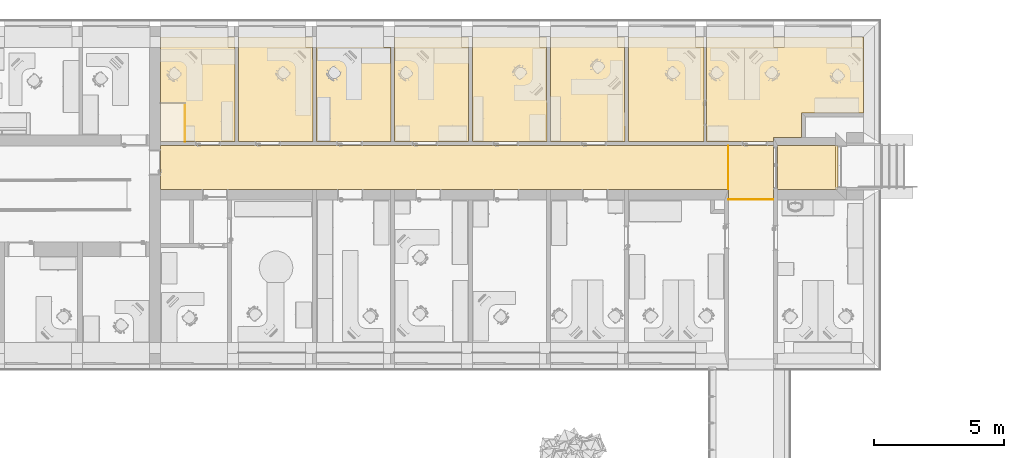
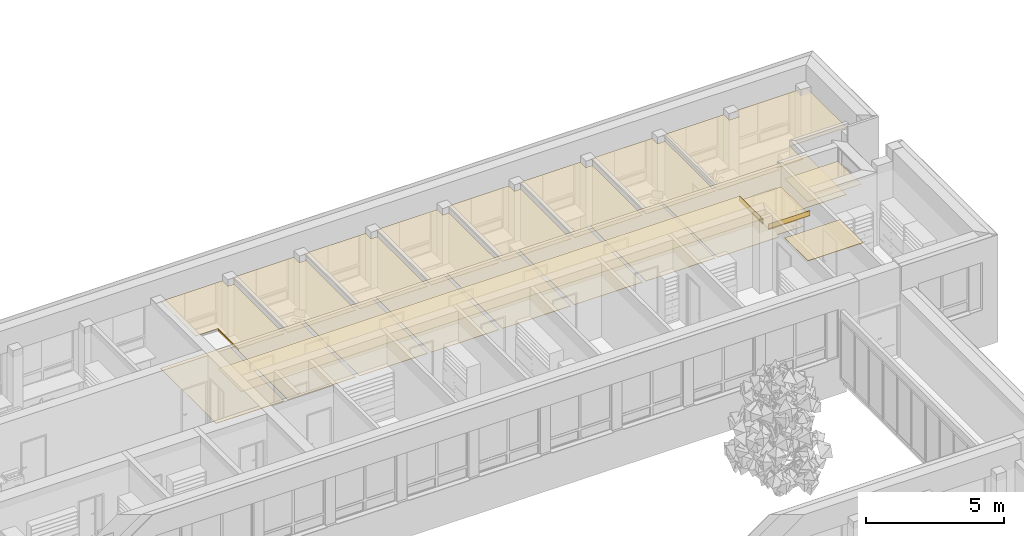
# One storey, part 109 of 194: 24 coverings.
"""IFC2X3 building model written with IfcOpenShell, lengths in millimetres."""

from ifc_helpers import new_model, entity, si_unit, converted_unit, derived_unit, money_unit, direction, frame, origin_with_axes, place, context, subcontext, project, spatial, polyline, outline, extrude, material, type_object, element, save


model = new_model("IFC2X3")

# Units and contexts
model_context = context("Model", 3, precision=1e-05, world=origin_with_axes(), true_north=direction((0.0, 1.0)))
body_context = subcontext(model_context, "Body", "Model", "MODEL_VIEW")
ifc_project = project(units=[si_unit("LENGTHUNIT", "METRE", prefix="MILLI"), si_unit("AREAUNIT", "SQUARE_METRE"), si_unit("VOLUMEUNIT", "CUBIC_METRE"), converted_unit("PLANEANGLEUNIT", "DEGREE", entity("IfcPlaneAngleMeasure", 0.0174532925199), si_unit("PLANEANGLEUNIT", "RADIAN"), dimensions=[0, 0, 0, 0, 0, 0, 0]), si_unit("SOLIDANGLEUNIT", "STERADIAN"), money_unit("EUR"), converted_unit("TIMEUNIT", "Year", entity("IfcTimeMeasure", 31556926.0), si_unit("TIMEUNIT", "SECOND"), dimensions=[0, 0, 1, 0, 0, 0, 0]), si_unit("MASSUNIT", "GRAM", prefix="KILO"), si_unit("THERMODYNAMICTEMPERATUREUNIT", "DEGREE_CELSIUS"), si_unit("LUMINOUSINTENSITYUNIT", "LUMEN"), si_unit("ENERGYUNIT", "JOULE", prefix="MEGA"), derived_unit("THERMALCONDUCTANCEUNIT", [(si_unit("POWERUNIT", "WATT"), 1), (si_unit("LENGTHUNIT", "METRE"), -1), (si_unit("THERMODYNAMICTEMPERATUREUNIT", "KELVIN"), -1)]), derived_unit("SPECIFICHEATCAPACITYUNIT", [(si_unit("ENERGYUNIT", "JOULE"), 1), (si_unit("MASSUNIT", "GRAM", prefix="KILO"), -1), (si_unit("THERMODYNAMICTEMPERATUREUNIT", "KELVIN"), -1)]), derived_unit("MASSDENSITYUNIT", [(si_unit("MASSUNIT", "GRAM", prefix="KILO"), 1), (si_unit("VOLUMEUNIT", "CUBIC_METRE"), -1)])], contexts=[model_context])

# Site, building, storey
site_placement = place(None, origin_with_axes())
site = spatial("IfcSite", under=ifc_project, at=site_placement, Name="Site", CompositionType="ELEMENT")
building_placement = place(site_placement, origin_with_axes())
building = spatial("IfcBuilding", under=site, at=building_placement, Name="Building", CompositionType="ELEMENT")
storey_placement = place(building_placement, frame((0.0, 0.0, 3000.0), z_axis=(0.0, 0.0, 1.0), x_axis=(1.0, 0.0, 0.0)))
storey = spatial("IfcBuildingStorey", under=building, at=storey_placement, Name="2 KORRUS", CompositionType="ELEMENT", Elevation=3000.0)

# Coverings
ifc_material_1 = material(Name="Kipsplaat")
covering_type_1 = type_object("IfcCoveringType", Name="L-4", PredefinedType="CEILING")
covering_1_placement = place(storey_placement, frame((42113.7399472, 67315.6083403, 2600.0), z_axis=(0.0, 0.0, 1.0), x_axis=(1.0, 0.0, 0.0)))
element("IfcCovering", 1, at=covering_1_placement, inside=storey, type_object=covering_type_1, material=ifc_material_1, Name="Ripplagi", PredefinedType="CEILING", context=body_context, shape_type="SweptSolid", body=[
    extrude(outline(polyline([(0.0, 0.0), (-2230.49243267, -0.138363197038), (-2230.49243267, -1685.57998438), (1.03561245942, -1685.57998438), (0.0, 0.0)])), origin_with_axes(), (0.0, 0.0, 1.0), 15.0),
])
covering_2_placement = place(storey_placement, frame((38000.74873, 65230.1450299, 2299.58287561), z_axis=(0.0, 0.0, 1.0), x_axis=(1.0, 0.0, 0.0)))
element("IfcCovering", 2, at=covering_2_placement, inside=storey, type_object=covering_type_1, material=ifc_material_1, Name="Ripplagi", PredefinedType="CEILING", context=body_context, shape_type="SweptSolid", body=[
    extrude(outline(polyline([(0.0, 0.0), (1732.49878453, 0.0), (1732.49878453, 2085.31654263), (0.0, 2085.31654263), (0.0, 0.0)])), origin_with_axes(), (0.0, 0.0, 1.0), 15.0),
])
covering_3_placement = place(storey_placement, frame((16157.2283117, 65630.0283559, 2500.0), z_axis=(0.0, 0.0, 1.0), x_axis=(1.0, 0.0, 0.0)))
element("IfcCovering", 3, at=covering_3_placement, inside=storey, type_object=covering_type_1, material=ifc_material_1, Name="Ripplagi", PredefinedType="CEILING", context=body_context, shape_type="SweptSolid", body=[
    extrude(outline(polyline([(0.0, 0.0), (21843.5204183, 0.0), (21843.5204183, 1685.43321671), (0.0, 1685.43321671), (0.0, 0.0)])), origin_with_axes(), (0.0, 0.0, 1.0), 15.0),
])
ifc_material_2 = material(Name="Betoon - Ol.Olev konstruktsioon")
covering_type_2 = type_object("IfcCoveringType", Name="P-6", PredefinedType="NOTDEFINED")
for number, where, z_axis, x_axis in (
    (4, (42206.5060597, 67315.6140948, 0.0), (0.0, 0.0, 1.0), (1.0, 0.0, 0.0)),
    (5, (42206.5060597, 67315.6140948, 0.0), (0.0, 0.0, 1.0), (1.0, 0.0, 0.0)),
):
    element("IfcCovering", number, at=place(storey_placement, frame(where, z_axis=z_axis, x_axis=x_axis)), inside=storey, type_object=covering_type_2, material=ifc_material_2, Name="Betoon - Ol.Olev konstruktsioon", PredefinedType="NOTDEFINED", context=body_context, shape_type="SweptSolid", body=[
        extrude(outline(polyline([(0.0, 0.0), (-2323.25854513, -0.144117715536), (-2323.25854513, -1685.5857389), (1.03561599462, -1685.5857389), (0.0, 0.0)])), frame((0.0, 0.0, -20.0), z_axis=(0.0, 0.0, 1.0), x_axis=(1.0, 0.0, 0.0)), (0.0, 0.0, 1.0), 20.0),
    ])
covering_type_3 = type_object("IfcCoveringType", Name="P-2", PredefinedType="NOTDEFINED")
covering_4_placement = place(storey_placement, frame((43191.4977047, 71492.4605109, 0.0), z_axis=(0.0, 0.0, 1.0), x_axis=(1.0, 0.0, 0.0)))
element("IfcCovering", 6, at=covering_4_placement, inside=storey, type_object=covering_type_3, material=ifc_material_2, Name="Betoon - Ol.Olev konstruktsioon", PredefinedType="NOTDEFINED", context=body_context, shape_type="SweptSolid", body=[
    extrude(outline(polyline([(0.0, 0.0), (-6031.76064785, -1.15043669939), (-6029.28582001, -4029.25678844), (-3458.25020427, -4029.53313776), (-3458.25020427, -3876.99981312), (-2375.66625663, -3876.93265861), (-2376.25077952, -2925.50227038), (1.24914573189, -2926.96303821), (0.0, 0.0)])), frame((0.0, 0.0, -20.0), z_axis=(0.0, 0.0, 1.0), x_axis=(1.0, 0.0, 0.0)), (0.0, 0.0, 1.0), 20.0),
])
covering_5_placement = place(storey_placement, frame((37059.7370581, 71491.2910295, 0.0), z_axis=(0.0, 0.0, 1.0), x_axis=(1.0, 0.0, 0.0)))
element("IfcCovering", 7, at=covering_5_placement, inside=storey, type_object=covering_type_3, material=ifc_material_2, Name="Betoon - Ol.Olev konstruktsioon", PredefinedType="NOTDEFINED", context=body_context, shape_type="SweptSolid", body=[
    extrude(outline(polyline([(0.0, 0.0), (-2899.93264397, -0.553112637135), (-2897.42524003, -4027.76484539), (2.47481141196, -4028.07654522), (0.0, 0.0)])), frame((0.0, 0.0, -20.0), z_axis=(0.0, 0.0, 1.0), x_axis=(1.0, 0.0, 0.0)), (0.0, 0.0, 1.0), 20.0),
])
covering_6_placement = place(storey_placement, frame((34009.8043971, 71490.7093296, 0.0), z_axis=(0.0, 0.0, 1.0), x_axis=(1.0, 0.0, 0.0)))
element("IfcCovering", 8, at=covering_6_placement, inside=storey, type_object=covering_type_3, material=ifc_material_2, Name="Betoon - Ol.Olev konstruktsioon", PredefinedType="NOTDEFINED", context=body_context, shape_type="SweptSolid", body=[
    extrude(outline(polyline([(0.0, 0.0), (-2849.95937658, -0.543566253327), (-2847.06565742, -4026.86072111), (2.50737785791, -4027.16700971), (0.0, 0.0)])), frame((0.0, 0.0, -20.0), z_axis=(0.0, 0.0, 1.0), x_axis=(1.0, 0.0, 0.0)), (0.0, 0.0, 1.0), 20.0),
])
covering_7_placement = place(storey_placement, frame((31009.8450107, 71490.1371608, 0.0), z_axis=(0.0, 0.0, 1.0), x_axis=(1.0, 0.0, 0.0)))
element("IfcCovering", 9, at=covering_7_placement, inside=storey, type_object=covering_type_3, material=ifc_material_2, Name="Betoon - Ol.Olev konstruktsioon", PredefinedType="NOTDEFINED", context=body_context, shape_type="SweptSolid", body=[
    extrude(outline(polyline([(0.0, 0.0), (-2850.22214989, -0.543625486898), (-2850.22214989, -4025.96571451), (2.89367631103, -4026.27241504), (0.0, 0.0)])), frame((0.0, 0.0, -20.0), z_axis=(0.0, 0.0, 1.0), x_axis=(1.0, 0.0, 0.0)), (0.0, 0.0, 1.0), 20.0),
])
covering_8_placement = place(storey_placement, frame((28009.6228427, 71489.564942, 0.0), z_axis=(0.0, 0.0, 1.0), x_axis=(1.0, 0.0, 0.0)))
element("IfcCovering", 10, at=covering_8_placement, inside=storey, type_object=covering_type_3, material=ifc_material_2, Name="Betoon - Ol.Olev konstruktsioon", PredefinedType="NOTDEFINED", context=body_context, shape_type="SweptSolid", body=[
    extrude(outline(polyline([(0.0, 0.0), (-2848.23810198, -0.543204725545), (-2845.76542877, -4025.0714769), (0.0, -4025.37738946), (0.0, 0.0)])), frame((0.0, 0.0, -20.0), z_axis=(0.0, 0.0, 1.0), x_axis=(1.0, 0.0, 0.0)), (0.0, 0.0, 1.0), 20.0),
])
covering_9_placement = place(storey_placement, frame((25011.3847138, 71488.9931015, 0.0), z_axis=(0.0, 0.0, 1.0), x_axis=(1.0, 0.0, 0.0)))
element("IfcCovering", 11, at=covering_9_placement, inside=storey, type_object=covering_type_3, material=ifc_material_2, Name="Betoon - Ol.Olev konstruktsioon", PredefinedType="NOTDEFINED", context=body_context, shape_type="SweptSolid", body=[
    extrude(outline(polyline([(0.0, 0.0), (-2851.11691136, -0.54380374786), (-2848.64478722, -4024.17708805), (2.4726638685, -4024.48353237), (0.0, 0.0)])), frame((0.0, 0.0, -20.0), z_axis=(0.0, 0.0, 1.0), x_axis=(1.0, 0.0, 0.0)), (0.0, 0.0, 1.0), 20.0),
])
covering_10_placement = place(storey_placement, frame((22010.2677852, 71488.4207119, 0.0), z_axis=(0.0, 0.0, 1.0), x_axis=(1.0, 0.0, 0.0)))
element("IfcCovering", 12, at=covering_10_placement, inside=storey, type_object=covering_type_3, material=ifc_material_2, Name="Betoon - Ol.Olev konstruktsioon", PredefinedType="NOTDEFINED", context=body_context, shape_type="SweptSolid", body=[
    extrude(outline(polyline([(0.0, 0.0), (-2849.98607102, -0.543562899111), (-2847.51449664, -4023.28217475), (2.4721139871, -4023.58855092), (0.0, 0.0)])), frame((0.0, 0.0, -20.0), z_axis=(0.0, 0.0, 1.0), x_axis=(1.0, 0.0, 0.0)), (0.0, 0.0, 1.0), 20.0),
])
covering_11_placement = place(storey_placement, frame((16157.227262, 67465.4615988, 0.0), z_axis=(0.0, 0.0, 1.0), x_axis=(1.0, 0.0, 0.0)))
element("IfcCovering", 13, at=covering_11_placement, inside=storey, type_object=covering_type_3, material=ifc_material_2, Name="Betoon - Ol.Olev konstruktsioon", PredefinedType="NOTDEFINED", context=body_context, shape_type="SweptSolid", body=[
    extrude(outline(polyline([(0.0, 0.0), (2855.52601293, -0.306967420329), (2853.05444862, 4022.3869393), (0.000839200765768, 4021.84277795), (0.0, 0.0)])), frame((0.0, 0.0, -20.0), z_axis=(0.0, 0.0, 1.0), x_axis=(1.0, 0.0, 0.0)), (0.0, 0.0, 1.0), 20.0),
])
covering_type_4 = type_object("IfcCoveringType", Name="L-1", PredefinedType="CEILING")
covering_12_placement = place(storey_placement, frame((16157.2281011, 71487.3043767, 2950.0), z_axis=(0.0, 0.0, 1.0), x_axis=(1.0, 0.0, 0.0)))
element("IfcCovering", 14, at=covering_12_placement, inside=storey, type_object=covering_type_4, material=ifc_material_1, Name="Ripplagi. Akustine kipsplaat", PredefinedType="CEILING", context=body_context, shape_type="SweptSolid", body=[
    extrude(outline(polyline([(0.0, 0.0), (-0.00083908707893, -2540.30364813), (948.49506901, -2540.30364813), (948.49506901, -4021.84275953), (2855.52517816, -4022.14974537), (2853.29878167, -398.472708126), (2584.42420132, -398.472768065), (2584.63858795, -0.000539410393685), (0.0, 0.0)])), origin_with_axes(), (0.0, 0.0, 1.0), 20.0),
])
covering_13_placement = place(storey_placement, frame((22010.5136415, 71088.2638583, 2950.0), z_axis=(0.0, 0.0, 1.0), x_axis=(1.0, 0.0, 0.0)))
element("IfcCovering", 15, at=covering_13_placement, inside=storey, type_object=covering_type_4, material=ifc_material_1, Name="Ripplagi. Akustine kipsplaat", PredefinedType="CEILING", context=body_context, shape_type="SweptSolid", body=[
    extrude(outline(polyline([(0.0, 0.0), (-269.996482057, -0.165887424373), (-270.232645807, 401.198444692), (-2850.23192729, 399.613290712), (-2847.76035289, -3623.12535055), (2.22625773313, -3623.43172673), (0.0, 0.0)])), origin_with_axes(), (0.0, 0.0, 1.0), 20.0),
])
covering_14_placement = place(storey_placement, frame((25010.7603778, 71090.1072127, 2950.0), z_axis=(0.0, 0.0, 1.0), x_axis=(1.0, 0.0, 0.0)))
element("IfcCovering", 16, at=covering_14_placement, inside=storey, type_object=covering_type_4, material=ifc_material_1, Name="Ripplagi. Akustine kipsplaat", PredefinedType="CEILING", context=body_context, shape_type="SweptSolid", body=[
    extrude(outline(polyline([(0.0, 0.0), (-269.996482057, -0.165887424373), (-270.232645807, 401.198444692), (-2850.23192729, 399.613290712), (-2847.75902221, -3625.29117399), (2.22758842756, -3625.59755016), (0.0, 0.0)])), origin_with_axes(), (0.0, 0.0, 1.0), 20.0),
])
covering_15_placement = place(storey_placement, frame((31010.3914187, 71093.7933917, 2950.0), z_axis=(0.0, 0.0, 1.0), x_axis=(1.0, 0.0, 0.0)))
element("IfcCovering", 17, at=covering_15_placement, inside=storey, type_object=covering_type_4, material=ifc_material_1, Name="Ripplagi. Akustine kipsplaat", PredefinedType="CEILING", context=body_context, shape_type="SweptSolid", body=[
    extrude(outline(polyline([(0.0, 0.0), (-269.996482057, -0.165887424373), (-270.232645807, 401.198444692), (-2850.23192729, 399.613290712), (-2847.75636119, -3629.62225711), (2.23024947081, -3629.92863329), (0.0, 0.0)])), origin_with_axes(), (0.0, 0.0, 1.0), 20.0),
])
covering_16_placement = place(storey_placement, frame((34010.3947149, 71092.4394075, 2950.0), z_axis=(0.0, 0.0, 1.0), x_axis=(1.0, 0.0, 0.0)))
element("IfcCovering", 18, at=covering_16_placement, inside=storey, type_object=covering_type_4, material=ifc_material_1, Name="Ripplagi. Akustine kipsplaat", PredefinedType="CEILING", context=body_context, shape_type="SweptSolid", body=[
    extrude(outline(polyline([(0.0, 0.0), (-269.996565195, -0.165887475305), (-270.234610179, 404.395632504), (-2850.23389166, 402.810478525), (-2847.75699496, -3628.59074502), (2.22961570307, -3628.89712121), (0.0, 0.0)])), origin_with_axes(), (0.0, 0.0, 1.0), 20.0),
])
covering_17_placement = place(storey_placement, frame((37059.9821154, 71092.416267, 2950.0), z_axis=(0.0, 0.0, 1.0), x_axis=(1.0, 0.0, 0.0)))
element("IfcCovering", 19, at=covering_17_placement, inside=storey, type_object=covering_type_4, material=ifc_material_1, Name="Ripplagi. Akustine kipsplaat", PredefinedType="CEILING", context=body_context, shape_type="SweptSolid", body=[
    extrude(outline(polyline([(0.0, 0.0), (-319.665044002, -0.196404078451), (-319.904205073, 406.261925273), (-2899.90348656, 404.676771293), (-2897.4252593, -3628.89006716), (2.22980288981, -3629.20178274), (0.0, 0.0)])), origin_with_axes(), (0.0, 0.0, 1.0), 20.0),
])
covering_18_placement = place(storey_placement, frame((39740.7614334, 71491.8023384, 2950.0), z_axis=(0.0, 0.0, 1.0), x_axis=(1.0, 0.0, 0.0)))
element("IfcCovering", 20, at=covering_18_placement, inside=storey, type_object=covering_type_4, material=ifc_material_1, Name="Ripplagi. Akustine kipsplaat", PredefinedType="CEILING", context=body_context, shape_type="SweptSolid", body=[
    extrude(outline(polyline([(0.0, 0.0), (-2581.02437654, -0.492286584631), (-2578.15636228, -4028.8749653), (-7.51391888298, -4028.8749653), (-7.51391888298, -3876.27452526), (1075.07002688, -3876.27452526), (1075.07002688, -2924.84446001), (3451.98475573, -2924.84446001), (3450.73627131, 0.658150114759), (419.942657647, 0.0800999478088), (420.00001317, -399.429068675), (0.0, -399.429068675), (0.0, 0.0)])), origin_with_axes(), (0.0, 0.0, 1.0), 20.0),
])
covering_19_placement = place(storey_placement, frame((28011.6147593, 71092.5399408, 2950.0), z_axis=(0.0, 0.0, 1.0), x_axis=(1.0, 0.0, 0.0)))
element("IfcCovering", 21, at=covering_19_placement, inside=storey, type_object=covering_type_4, material=ifc_material_1, Name="Ripplagi. Akustine kipsplaat", PredefinedType="CEILING", context=body_context, shape_type="SweptSolid", body=[
    extrude(outline(polyline([(0.0, 0.0), (-269.996482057, -0.165887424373), (-270.232645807, 401.198444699), (-2850.23192729, 399.61329072), (-2847.75732935, -3628.04646594), (-1.99189852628, -3628.35238833), (0.0, 0.0)])), origin_with_axes(), (0.0, 0.0, 1.0), 20.0),
])
covering_type_5 = type_object("IfcCoveringType", Name="Kips", PredefinedType="CEILING")
covering_20_placement = place(storey_placement, frame((38000.7567172, 65230.0283561, 2287.08287561), z_axis=(0.0, 0.0, 1.0), x_axis=(1.0, 0.0, 0.0)))
element("IfcCovering", 22, at=covering_20_placement, inside=storey, type_object=covering_type_5, material=ifc_material_1, Name="Kipsplaat", PredefinedType="CEILING", context=body_context, shape_type="SweptSolid", body=[
    extrude(outline(polyline([(0.0, 0.0), (1732.49079733, 0.0), (1732.49079733, 12.9999999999), (0.0, 12.9999999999), (0.0, 0.0)])), origin_with_axes(), (0.0, 0.0, 1.0), 232.917124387),
])
covering_21_placement = place(storey_placement, frame((38000.74873, 65630.0283559, 2299.58287561), z_axis=(0.0, 0.0, 1.0), x_axis=(0.0, 1.0, 0.0)))
element("IfcCovering", 23, at=covering_21_placement, inside=storey, type_object=covering_type_5, material=ifc_material_1, Name="Kipsplaat", PredefinedType="CEILING", context=body_context, shape_type="SweptSolid", body=[
    extrude(outline(polyline([(0.0, 0.0), (1683.0852437, 0.0), (1683.08664108, 13.0), (0.0, 13.0), (0.0, 0.0)])), origin_with_axes(), (0.0, 0.0, 1.0), 200.417124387),
])
covering_22_placement = place(storey_placement, frame((17092.8810478, 68934.000734, 2859.72980294), z_axis=(0.0, 0.0, 1.0), x_axis=(-0.000107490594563, -0.999999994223, 0.0)))
element("IfcCovering", 24, at=covering_22_placement, inside=storey, type_object=covering_type_5, material=ifc_material_1, Name="Kipsplaat", PredefinedType="CEILING", context=body_context, shape_type="SweptSolid", body=[
    extrude(outline(polyline([(9.09494701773e-10, 0.0), (1468.63972591, 0.0), (1468.63972591, 12.9999999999), (-13.0013948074, 12.9999999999), (9.09494701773e-10, 0.0)])), origin_with_axes(), (0.0, 0.0, 1.0), 90.2701970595),
])

save(model, "model.ifc")
